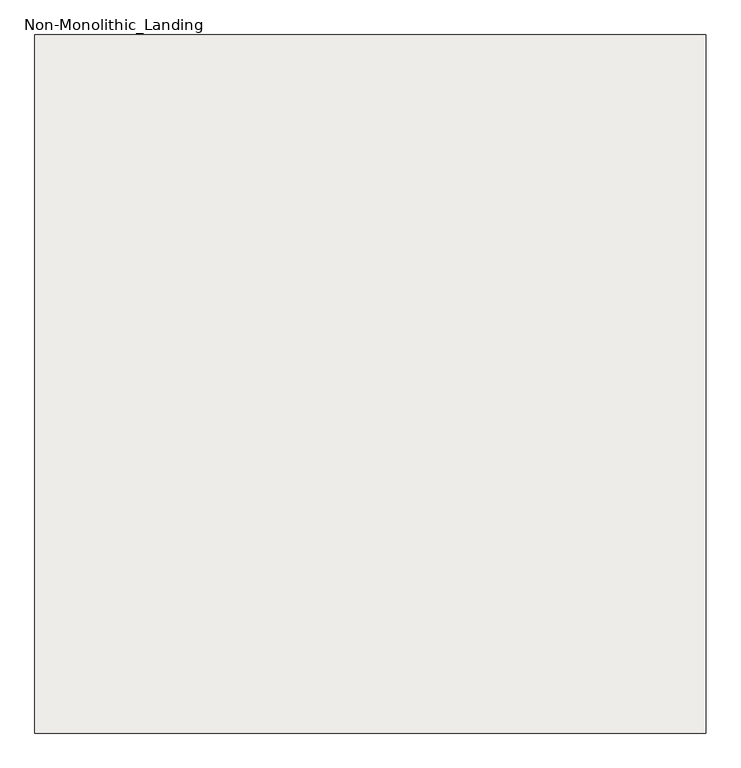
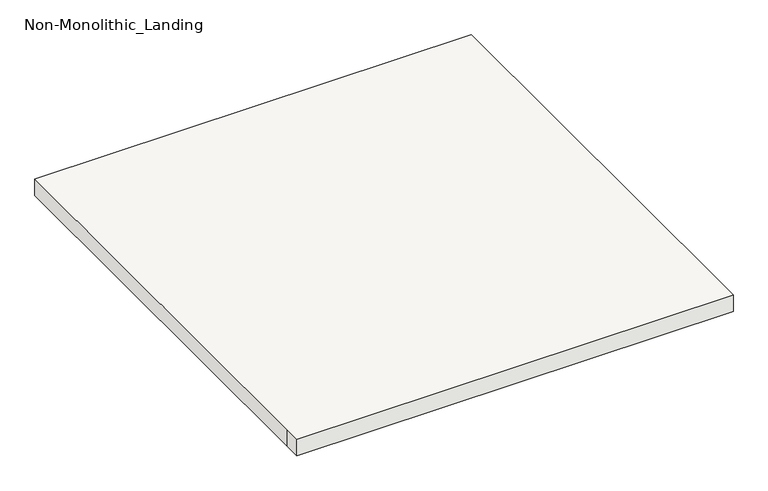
"""IFC4 building model written with IfcOpenShell, lengths in millimetres: slab geometry, Non-Monolithic_Landing."""

from ifc_helpers import new_model, si_unit, frame, origin, place, context, project, spatial, polyline, outline, extrude, source, transform, mapped, element, save


def non_monolithic_landing_d436ff5b(model_context):
    return source(origin(), model_context, "Body", "SweptSolid", [
        extrude(outline(polyline([(-4849.2057633, 2314.9946591), (-4849.2057633, 1314.9946591), (-4849.2057633, 1274.9946591), (-5849.2057633, 1274.9946591), (-5849.2057633, 1314.9946591), (-5849.2057633, 2314.9946591), (-4849.2057633, 2314.9946591)])), frame((0.0, 0.0, 1924.2857143), z_axis=(0.0, 0.0, 1.0), x_axis=(1.0, 0.0, 0.0)), (0.0, 0.0, 1.0), 40.0),
    ])


if __name__ == "__main__":
    model = new_model("IFC4")
    model_context = context("Model", 3, world=origin())
    ifc_project = project(units=[si_unit("LENGTHUNIT", "METRE", prefix="MILLI")], contexts=[model_context])
    site = spatial("IfcSite", under=ifc_project)
    building = spatial("IfcBuilding", under=site)
    placement = place(None, origin())
    non_monolithic_landing_shape = non_monolithic_landing_d436ff5b(model_context)
    element("IfcSlab", 1, ObjectType="Non-Monolithic_Landing", at=placement, inside=building, context=model_context, shape_type="MappedRepresentation", body=[
        mapped(non_monolithic_landing_shape, transform((0.0, 0.0, 0.0), x_axis=(1.0, 0.0, 0.0), y_axis=(0.0, 1.0, 0.0), z_axis=(0.0, 0.0, 1.0))),
    ])
    save(model, "model.ifc")
